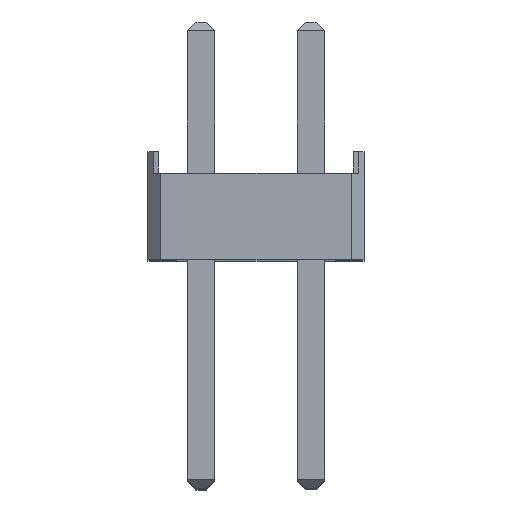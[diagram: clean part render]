
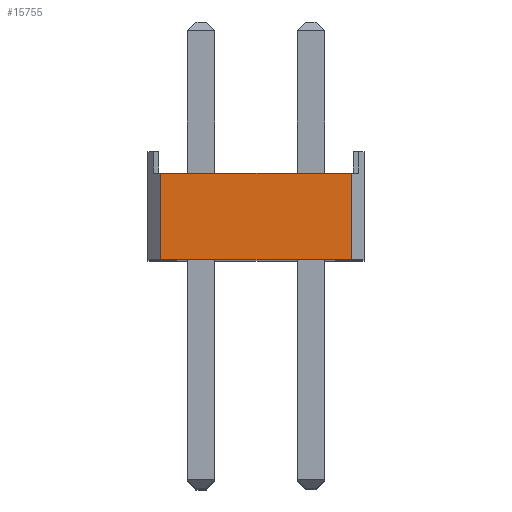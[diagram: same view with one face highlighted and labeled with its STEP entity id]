
A CAD part, top view. The second image highlights one B-rep face of the part: STEP entity #15755.
In plain terms, the highlighted planar face has unit normal (0, 0, 1).
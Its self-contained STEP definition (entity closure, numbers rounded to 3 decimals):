
#85 = ORIENTED_EDGE ( 'NONE', *, *, #5350, .F. ) ;
#607 = CARTESIAN_POINT ( 'NONE',  ( 1.55, -5.5, 19.37 ) ) ;
#810 = CARTESIAN_POINT ( 'NONE',  ( 1.25, -5.5, 19.37 ) ) ;
#965 = AXIS2_PLACEMENT_3D ( 'NONE', #12297, #6175, #10052 ) ;
#1309 = VECTOR ( 'NONE', #1915, 1000. ) ;
#1375 = ORIENTED_EDGE ( 'NONE', *, *, #11827, .T. ) ;
#1902 = VECTOR ( 'NONE', #3258, 1000. ) ;
#1915 = DIRECTION ( 'NONE',  ( -1., 0., 0. ) ) ;
#1988 = CARTESIAN_POINT ( 'NONE',  ( -3.15, -3.5, 19.37 ) ) ;
#2299 = ORIENTED_EDGE ( 'NONE', *, *, #12149, .T. ) ;
#2662 = DIRECTION ( 'NONE',  ( -1., 0., 0. ) ) ;
#2670 = CARTESIAN_POINT ( 'NONE',  ( 1.25, -3.5, 19.37 ) ) ;
#2864 = EDGE_CURVE ( 'NONE', #3593, #11001, #3846, .T. ) ;
#3159 = ORIENTED_EDGE ( 'NONE', *, *, #2864, .T. ) ;
#3258 = DIRECTION ( 'NONE',  ( 0., -1., 0. ) ) ;
#3593 = VERTEX_POINT ( 'NONE', #11398 ) ;
#3846 = LINE ( 'NONE', #7903, #10424 ) ;
#4462 = LINE ( 'NONE', #607, #1309 ) ;
#5221 = DIRECTION ( 'NONE',  ( 0., 1., 0. ) ) ;
#5350 = EDGE_CURVE ( 'NONE', #9515, #10579, #4462, .T. ) ;
#6175 = DIRECTION ( 'NONE',  ( 0., 0., 1. ) ) ;
#7903 = CARTESIAN_POINT ( 'NONE',  ( 1.55, -3.5, 19.37 ) ) ;
#8849 = PLANE ( 'NONE',  #965 ) ;
#9515 = VERTEX_POINT ( 'NONE', #810 ) ;
#9834 = EDGE_LOOP ( 'NONE', ( #85, #1375, #3159, #2299 ) ) ;
#10052 = DIRECTION ( 'NONE',  ( 1., 0., 0. ) ) ;
#10169 = VECTOR ( 'NONE', #5221, 1000. ) ;
#10424 = VECTOR ( 'NONE', #2662, 1000. ) ;
#10579 = VERTEX_POINT ( 'NONE', #14012 ) ;
#11001 = VERTEX_POINT ( 'NONE', #13589 ) ;
#11398 = CARTESIAN_POINT ( 'NONE',  ( 1.25, -3.5, 19.37 ) ) ;
#11827 = EDGE_CURVE ( 'NONE', #9515, #3593, #13695, .T. ) ;
#12149 = EDGE_CURVE ( 'NONE', #11001, #10579, #13037, .T. ) ;
#12297 = CARTESIAN_POINT ( 'NONE',  ( 1.55, -3.5, 19.37 ) ) ;
#13037 = LINE ( 'NONE', #1988, #1902 ) ;
#13589 = CARTESIAN_POINT ( 'NONE',  ( -3.15, -3.5, 19.37 ) ) ;
#13695 = LINE ( 'NONE', #2670, #10169 ) ;
#14012 = CARTESIAN_POINT ( 'NONE',  ( -3.15, -5.5, 19.37 ) ) ;
#14931 = FACE_OUTER_BOUND ( 'NONE', #9834, .T. ) ;
#15755 = ADVANCED_FACE ( 'NONE', ( #14931 ), #8849, .T. ) ;
